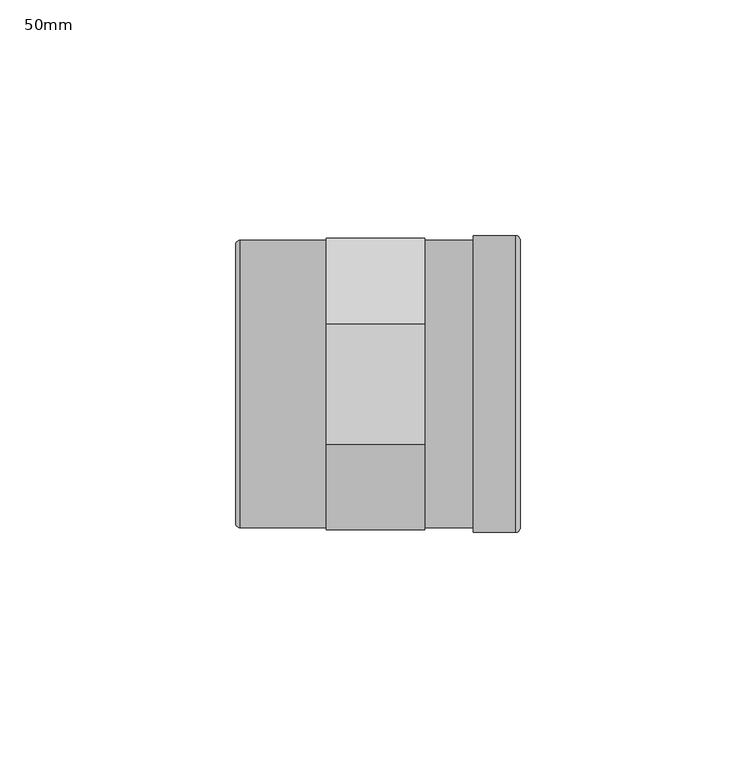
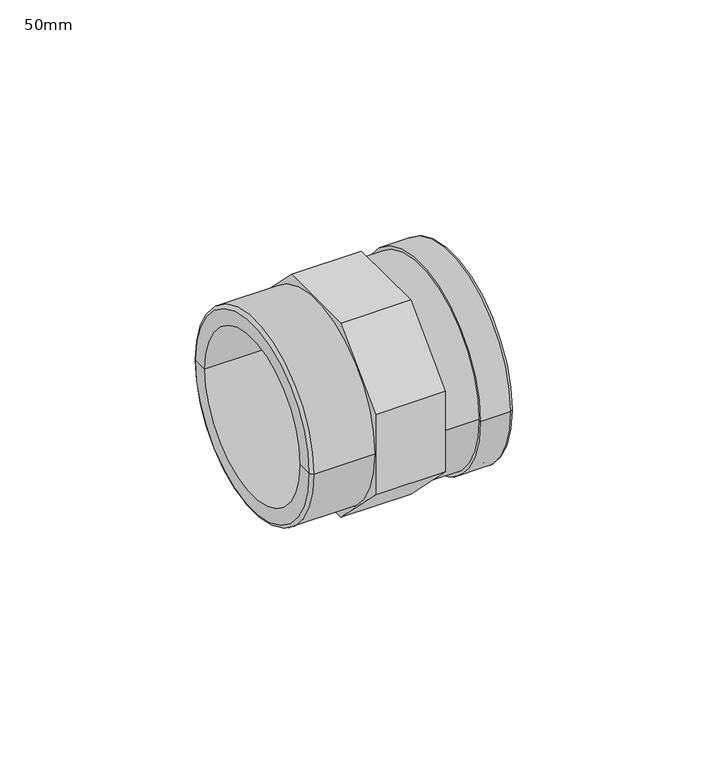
"""IFC4 building model written with IfcOpenShell, lengths in millimetres: pipe fitting geometry, Durapipe_PipeFitting_PVC_PlainThreadedSockets : 50mm."""

from ifc_helpers import new_model, si_unit, point, frame, origin, origin_2d, place, context, project, spatial, polyline, circle_curve, ellipse_curve, trimmed, segment, composite_curve, outline, extrude, source, transform, mapped, element, save
from ifc_brep_helpers import plane_surface, cylinder_surface, revolved_surface, advanced_brep


def pipe_fitting_50mm_ae8cc832(model_context):
    return source(origin(), model_context, "Body", "SolidModel", [
        extrude(outline(polyline([(-30.9, 12.7991991), (-12.7991991, 30.9), (12.7991991, 30.9), (30.9, 12.7991991), (30.9, -12.7991991), (12.7991991, -30.9), (-12.7991991, -30.9), (-30.9, -12.7991991), (-30.9, 12.7991991)]), holes=[composite_curve([segment(trimmed(circle_curve(origin_2d(), 30.5), [point((-30.5, 0.0))], [point((30.5, 0.0))], True, "CARTESIAN"), True, "CONTINUOUS"), segment(trimmed(circle_curve(origin_2d(), 30.5), [point((30.5, 0.0))], [point((-30.5, 0.0))], True, "CARTESIAN"), True, "CONTINUOUS")], self_intersect=False)]), frame((-15.3, 0.0, 0.0), z_axis=(1.0, 0.0, 0.0), x_axis=(0.0, 1.0, 0.0)), (0.0, 0.0, 1.0), 21.0),
        advanced_brep(
        [(22.9, -30.5, 0.0), (22.9, 30.5, 0.0), (22.9, 25.0, 0.0), (22.9, -25.0, 0.0), (-33.5, -30.5, 0.0), (-33.5, 30.5, 0.0), (-34.5, -25.0, 0.0), (-34.5, 25.0, 0.0), (-34.5, 29.5, 0.0), (-34.5, -29.5, 0.0), (-3.5, -25.0, 0.0), (-3.5, 25.0, 0.0), (-3.5, -21.7, 0.0), (-3.5, 21.7, 0.0), (3.5, -21.7, 0.0), (3.5, 21.7, 0.0), (3.5, -25.0, 0.0), (3.5, 25.0, 0.0)],
        [
            (0, 1, circle_curve(frame((22.9, 0.0, 0.0), z_axis=(1.0, 0.0, 0.0), x_axis=(0.0, 1.0, 0.0)), 30.5)),
            (1, 2),
            (2, 3, circle_curve(frame((22.9, 0.0, 0.0), z_axis=(-1.0, 0.0, 0.0), x_axis=(0.0, 1.0, 0.0)), 25.0)),
            (3, 0),
            (1, 0, circle_curve(frame((22.9, 0.0, 0.0), z_axis=(1.0, 0.0, 0.0), x_axis=(0.0, 1.0, 0.0)), 30.5)),
            (3, 2, circle_curve(frame((22.9, 0.0, 0.0), z_axis=(-1.0, 0.0, 0.0), x_axis=(0.0, 1.0, 0.0)), 25.0)),
            (4, 5, circle_curve(frame((-33.5, 0.0, 0.0), z_axis=(1.0, 0.0, 0.0), x_axis=(0.0, 1.0, 0.0)), 30.5)),
            (5, 1),
            (0, 4),
            (5, 4, circle_curve(frame((-33.5, 0.0, 0.0), z_axis=(1.0, 0.0, 0.0), x_axis=(0.0, 1.0, 0.0)), 30.5)),
            (6, 7, circle_curve(frame((-34.5, 0.0, 0.0), z_axis=(1.0, 0.0, 0.0), x_axis=(0.0, 1.0, 0.0)), 25.0)),
            (7, 8),
            (8, 9, circle_curve(frame((-34.5, 0.0, 0.0), z_axis=(-1.0, 0.0, 0.0), x_axis=(0.0, 1.0, 0.0)), 29.5)),
            (9, 6),
            (7, 6, circle_curve(frame((-34.5, 0.0, 0.0), z_axis=(1.0, 0.0, 0.0), x_axis=(0.0, 1.0, 0.0)), 25.0)),
            (9, 8, circle_curve(frame((-34.5, 0.0, 0.0), z_axis=(-1.0, 0.0, 0.0), x_axis=(0.0, 1.0, 0.0)), 29.5)),
            (10, 11, circle_curve(frame((-3.5, 0.0, 0.0), z_axis=(1.0, 0.0, 0.0), x_axis=(0.0, 1.0, 0.0)), 25.0)),
            (11, 7),
            (6, 10),
            (11, 10, circle_curve(frame((-3.5, 0.0, 0.0), z_axis=(1.0, 0.0, 0.0), x_axis=(0.0, 1.0, 0.0)), 25.0)),
            (12, 13, circle_curve(frame((-3.5, 0.0, 0.0), z_axis=(1.0, 0.0, 0.0), x_axis=(0.0, 1.0, 0.0)), 21.7)),
            (13, 11),
            (10, 12),
            (13, 12, circle_curve(frame((-3.5, 0.0, 0.0), z_axis=(1.0, 0.0, 0.0), x_axis=(0.0, 1.0, 0.0)), 21.7)),
            (14, 15, circle_curve(frame((3.5, 0.0, 0.0), z_axis=(1.0, 0.0, 0.0), x_axis=(0.0, 1.0, 0.0)), 21.7)),
            (15, 13),
            (12, 14),
            (15, 14, circle_curve(frame((3.5, 0.0, 0.0), z_axis=(1.0, 0.0, 0.0), x_axis=(0.0, 1.0, 0.0)), 21.7)),
            (16, 17, circle_curve(frame((3.5, 0.0, 0.0), z_axis=(1.0, 0.0, 0.0), x_axis=(0.0, 1.0, 0.0)), 25.0)),
            (17, 15),
            (14, 16),
            (17, 16, circle_curve(frame((3.5, 0.0, 0.0), z_axis=(1.0, 0.0, 0.0), x_axis=(0.0, 1.0, 0.0)), 25.0)),
            (2, 17),
            (16, 3),
            (8, 5, circle_curve(frame((-33.5, 29.5, 0.0), z_axis=(0.0, 0.0, -1.0), x_axis=(1.0, 0.0, 0.0)), 1.0)),
            (4, 9, circle_curve(frame((-33.5, -29.5, 0.0), z_axis=(0.0, 0.0, -1.0), x_axis=(1.0, 0.0, 0.0)), 1.0)),
        ],
        [
            plane_surface(frame((22.9, 0.0, 0.0), z_axis=(1.0, 0.0, 0.0), x_axis=(0.0, 1.0, 0.0))),
            cylinder_surface(frame((-50.0846764, 0.0, 0.0), z_axis=(-1.0, 0.0, 0.0), x_axis=(0.0, 1.0, 0.0)), 30.5),
            plane_surface(frame((-34.5, 0.0, 0.0), z_axis=(-1.0, 0.0, 0.0), x_axis=(0.0, 1.0, 0.0))),
            revolved_surface(polyline([(-34.5, 25.0, 0.0), (-3.5, 25.0, 0.0)]), (-50.0846764, 0.0, 0.0), (-1.0, 0.0, 0.0)),
            plane_surface(frame((-3.5, 0.0, 0.0), z_axis=(-1.0, 0.0, 0.0), x_axis=(0.0, 1.0, 0.0))),
            revolved_surface(polyline([(-3.5, 21.7, 0.0), (3.5, 21.7, 0.0)]), (-50.0846764, 0.0, 0.0), (-1.0, 0.0, 0.0)),
            plane_surface(frame((3.5, 0.0, 0.0), z_axis=(1.0, 0.0, 0.0), x_axis=(0.0, 1.0, 0.0))),
            revolved_surface(polyline([(3.5, 25.0, 0.0), (22.9, 25.0, 0.0)]), (-50.0846764, 0.0, 0.0), (-1.0, 0.0, 0.0)),
            revolved_surface(trimmed(ellipse_curve(frame((-33.5, 29.5, 0.0), z_axis=(0.0, 0.0, 1.0), x_axis=(1.0, 0.0, 0.0)), 1.0, 1.0), [point((-33.5, 30.5, 0.0))], [point((-34.5, 29.5, 0.0))], True, "CARTESIAN"), (-50.0846764, 0.0, 0.0), (-1.0, 0.0, 0.0)),
        ],
        [
            (0, [[1, 2, 3, 4]]),
            (0, [[5, -4, 6, -2]]),
            (1, [[7, 8, -1, 9]]),
            (1, [[10, -9, -5, -8]]),
            (2, [[11, 12, 13, 14]]),
            (2, [[15, -14, 16, -12]]),
            (3, [[17, 18, -11, 19]]),
            (3, [[20, -19, -15, -18]]),
            (4, [[21, 22, -17, 23]]),
            (4, [[24, -23, -20, -22]]),
            (5, [[25, 26, -21, 27]]),
            (5, [[28, -27, -24, -26]]),
            (6, [[29, 30, -25, 31]]),
            (6, [[32, -31, -28, -30]]),
            (7, [[-3, 33, -29, 34]]),
            (7, [[-6, -34, -32, -33]]),
            (8, [[-13, 35, -7, 36]]),
            (8, [[-16, -36, -10, -35]]),
        ],
    ),
        advanced_brep(
        [(15.9, -30.5, 0.0), (15.9, 30.5, 0.0), (15.9, 31.5, 0.0), (15.9, -31.5, 0.0), (22.9, -30.5, 0.0), (22.9, 30.5, 0.0), (22.9, -27.6, 0.0), (22.9, 27.6, 0.0), (25.9, -27.6, 0.0), (25.9, 27.6, 0.0), (25.9, -30.5, 0.0), (25.9, 30.5, 0.0), (24.9, 31.5, 0.0), (24.9, -31.5, 0.0)],
        [
            (0, 1, circle_curve(frame((15.9, 0.0, 0.0), z_axis=(1.0, 0.0, 0.0), x_axis=(0.0, 1.0, 0.0)), 30.5)),
            (1, 2),
            (2, 3, circle_curve(frame((15.9, 0.0, 0.0), z_axis=(-1.0, 0.0, 0.0), x_axis=(0.0, 1.0, 0.0)), 31.5)),
            (3, 0),
            (1, 0, circle_curve(frame((15.9, 0.0, 0.0), z_axis=(1.0, 0.0, 0.0), x_axis=(0.0, 1.0, 0.0)), 30.5)),
            (3, 2, circle_curve(frame((15.9, 0.0, 0.0), z_axis=(-1.0, 0.0, 0.0), x_axis=(0.0, 1.0, 0.0)), 31.5)),
            (4, 5, circle_curve(frame((22.9, 0.0, 0.0), z_axis=(1.0, 0.0, 0.0), x_axis=(0.0, 1.0, 0.0)), 30.5)),
            (5, 1),
            (0, 4),
            (5, 4, circle_curve(frame((22.9, 0.0, 0.0), z_axis=(1.0, 0.0, 0.0), x_axis=(0.0, 1.0, 0.0)), 30.5)),
            (6, 7, circle_curve(frame((22.9, 0.0, 0.0), z_axis=(1.0, 0.0, 0.0), x_axis=(0.0, 1.0, 0.0)), 27.6)),
            (7, 5),
            (4, 6),
            (7, 6, circle_curve(frame((22.9, 0.0, 0.0), z_axis=(1.0, 0.0, 0.0), x_axis=(0.0, 1.0, 0.0)), 27.6)),
            (8, 9, circle_curve(frame((25.9, 0.0, 0.0), z_axis=(1.0, 0.0, 0.0), x_axis=(0.0, 1.0, 0.0)), 27.6)),
            (9, 7),
            (6, 8),
            (9, 8, circle_curve(frame((25.9, 0.0, 0.0), z_axis=(1.0, 0.0, 0.0), x_axis=(0.0, 1.0, 0.0)), 27.6)),
            (10, 11, circle_curve(frame((25.9, 0.0, 0.0), z_axis=(1.0, 0.0, 0.0), x_axis=(0.0, 1.0, 0.0)), 30.5)),
            (11, 9),
            (8, 10),
            (11, 10, circle_curve(frame((25.9, 0.0, 0.0), z_axis=(1.0, 0.0, 0.0), x_axis=(0.0, 1.0, 0.0)), 30.5)),
            (2, 12),
            (12, 13, circle_curve(frame((24.9, 0.0, 0.0), z_axis=(-1.0, 0.0, 0.0), x_axis=(0.0, 1.0, 0.0)), 31.5)),
            (13, 3),
            (13, 12, circle_curve(frame((24.9, 0.0, 0.0), z_axis=(-1.0, 0.0, 0.0), x_axis=(0.0, 1.0, 0.0)), 31.5)),
            (12, 11, circle_curve(frame((24.9, 30.5, 0.0), z_axis=(0.0, 0.0, -1.0), x_axis=(1.0, 0.0, 0.0)), 1.0)),
            (10, 13, circle_curve(frame((24.9, -30.5, 0.0), z_axis=(0.0, 0.0, -1.0), x_axis=(1.0, 0.0, 0.0)), 1.0)),
        ],
        [
            plane_surface(frame((15.9, 0.0, 0.0), z_axis=(-1.0, 0.0, 0.0), x_axis=(0.0, 1.0, 0.0))),
            revolved_surface(polyline([(15.9, 30.5, 0.0), (22.9, 30.5, 0.0)]), (31.8037641, 0.0, 0.0), (-1.0, 0.0, 0.0)),
            plane_surface(frame((22.9, 0.0, 0.0), z_axis=(-1.0, 0.0, 0.0), x_axis=(0.0, 1.0, 0.0))),
            revolved_surface(polyline([(22.9, 27.6, 0.0), (25.9, 27.6, 0.0)]), (31.8037641, 0.0, 0.0), (-1.0, 0.0, 0.0)),
            plane_surface(frame((25.9, 0.0, 0.0), z_axis=(1.0, 0.0, 0.0), x_axis=(0.0, 1.0, 0.0))),
            cylinder_surface(frame((31.8037641, 0.0, 0.0), z_axis=(-1.0, 0.0, 0.0), x_axis=(0.0, 1.0, 0.0)), 31.5),
            revolved_surface(trimmed(ellipse_curve(frame((24.9, 30.5, 0.0), z_axis=(0.0, 0.0, 1.0), x_axis=(1.0, 0.0, 0.0)), 1.0, 1.0), [point((25.9, 30.5, 0.0))], [point((24.9, 31.5, 0.0))], True, "CARTESIAN"), (31.8037641, 0.0, 0.0), (-1.0, 0.0, 0.0)),
        ],
        [
            (0, [[1, 2, 3, 4]]),
            (0, [[5, -4, 6, -2]]),
            (1, [[7, 8, -1, 9]]),
            (1, [[10, -9, -5, -8]]),
            (2, [[11, 12, -7, 13]]),
            (2, [[14, -13, -10, -12]]),
            (3, [[15, 16, -11, 17]]),
            (3, [[18, -17, -14, -16]]),
            (4, [[19, 20, -15, 21]]),
            (4, [[22, -21, -18, -20]]),
            (5, [[-3, 23, 24, 25]]),
            (5, [[-6, -25, 26, -23]]),
            (6, [[-24, 27, -19, 28]]),
            (6, [[-26, -28, -22, -27]]),
        ],
    ),
    ])


if __name__ == "__main__":
    model = new_model("IFC4")
    model_context = context("Model", 3, world=origin())
    ifc_project = project(units=[si_unit("LENGTHUNIT", "METRE", prefix="MILLI")], contexts=[model_context])
    site = spatial("IfcSite", under=ifc_project)
    building = spatial("IfcBuilding", under=site)
    placement = place(None, origin())
    pipe_fitting_50mm_shape = pipe_fitting_50mm_ae8cc832(model_context)
    element("IfcPipeFitting", 1, ObjectType="Durapipe_PipeFitting_PVC_PlainThreadedSockets : 50mm", at=placement, inside=building, context=model_context, shape_type="MappedRepresentation", body=[
        mapped(pipe_fitting_50mm_shape, transform((0.0, 0.0, 0.0), x_axis=(1.0, 0.0, 0.0), y_axis=(0.0, 1.0, 0.0), z_axis=(0.0, 0.0, 1.0))),
    ])
    save(model, "model.ifc")
